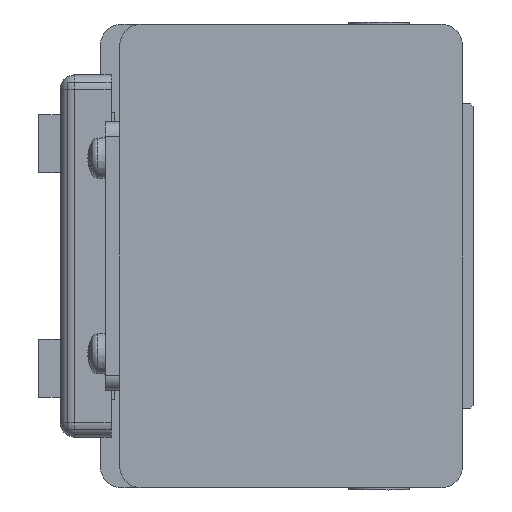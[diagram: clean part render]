
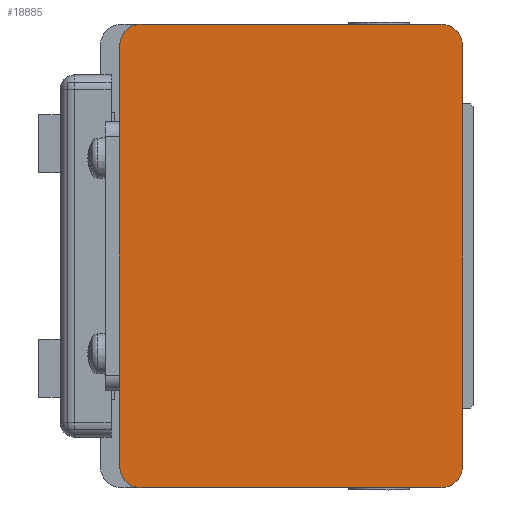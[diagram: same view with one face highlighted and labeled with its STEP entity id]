
A CAD part, left-side view. The second image highlights one B-rep face of the part: STEP entity #18885.
In plain terms, the highlighted planar face has unit normal (-1, 0, 0) as drawn and (0, 0, -1) by its records, which use the part's own axes.
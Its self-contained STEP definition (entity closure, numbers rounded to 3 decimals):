
#779=LINE('',#26643,#2431);
#794=LINE('',#26685,#2446);
#839=LINE('',#26794,#2491);
#861=LINE('',#26863,#2513);
#874=LINE('',#26898,#2526);
#875=LINE('',#26901,#2527);
#876=LINE('',#26902,#2528);
#877=LINE('',#26907,#2529);
#2431=VECTOR('',#21769,19.);
#2446=VECTOR('',#21802,41.3);
#2491=VECTOR('',#21891,41.3);
#2513=VECTOR('',#21951,19.);
#2526=VECTOR('',#21986,0.1);
#2527=VECTOR('',#21989,20.);
#2528=VECTOR('',#21990,0.1);
#2529=VECTOR('',#21995,58.);
#4232=PLANE('',#20107);
#5036=FACE_OUTER_BOUND('',#6140,.T.);
#6140=EDGE_LOOP('',(#12686,#12687,#12688,#12689,#12690,#12691,#12692,#12693,
#12694,#12695,#12696,#12697));
#7376=CIRCLE('',#20108,3.);
#7377=CIRCLE('',#20109,3.);
#7378=CIRCLE('',#20110,3.);
#7379=CIRCLE('',#20111,3.);
#7921=VERTEX_POINT('',#26640);
#7922=VERTEX_POINT('',#26642);
#7939=VERTEX_POINT('',#26682);
#7940=VERTEX_POINT('',#26684);
#7981=VERTEX_POINT('',#26791);
#7982=VERTEX_POINT('',#26793);
#8009=VERTEX_POINT('',#26860);
#8010=VERTEX_POINT('',#26862);
#8021=VERTEX_POINT('',#26896);
#8022=VERTEX_POINT('',#26900);
#8023=VERTEX_POINT('',#26904);
#8024=VERTEX_POINT('',#26906);
#9770=EDGE_CURVE('',#7922,#7921,#779,.T.);
#9791=EDGE_CURVE('',#7940,#7939,#794,.T.);
#9846=EDGE_CURVE('',#7982,#7981,#839,.T.);
#9880=EDGE_CURVE('',#8010,#8009,#861,.T.);
#9899=EDGE_CURVE('',#8021,#7921,#874,.T.);
#9900=EDGE_CURVE('',#8022,#8021,#875,.T.);
#9901=EDGE_CURVE('',#8010,#8022,#876,.T.);
#9902=EDGE_CURVE('',#8009,#7982,#7376,.T.);
#9903=EDGE_CURVE('',#7981,#8023,#7377,.T.);
#9904=EDGE_CURVE('',#8023,#8024,#877,.T.);
#9905=EDGE_CURVE('',#8024,#7940,#7378,.T.);
#9906=EDGE_CURVE('',#7939,#7922,#7379,.T.);
#12686=ORIENTED_EDGE('',*,*,#9770,.T.);
#12687=ORIENTED_EDGE('',*,*,#9899,.F.);
#12688=ORIENTED_EDGE('',*,*,#9900,.F.);
#12689=ORIENTED_EDGE('',*,*,#9901,.F.);
#12690=ORIENTED_EDGE('',*,*,#9880,.T.);
#12691=ORIENTED_EDGE('',*,*,#9902,.T.);
#12692=ORIENTED_EDGE('',*,*,#9846,.T.);
#12693=ORIENTED_EDGE('',*,*,#9903,.T.);
#12694=ORIENTED_EDGE('',*,*,#9904,.T.);
#12695=ORIENTED_EDGE('',*,*,#9905,.T.);
#12696=ORIENTED_EDGE('',*,*,#9791,.T.);
#12697=ORIENTED_EDGE('',*,*,#9906,.T.);
#18885=ADVANCED_FACE('',(#5036),#4232,.F.);
#20107=AXIS2_PLACEMENT_3D('',#26899,#21987,#21988);
#20108=AXIS2_PLACEMENT_3D('',#26903,#21991,#21992);
#20109=AXIS2_PLACEMENT_3D('',#26905,#21993,#21994);
#20110=AXIS2_PLACEMENT_3D('',#26908,#21996,#21997);
#20111=AXIS2_PLACEMENT_3D('',#26909,#21998,#21999);
#21769=DIRECTION('',(1.,0.,0.));
#21802=DIRECTION('',(0.,1.,0.));
#21891=DIRECTION('',(0.,-1.,0.));
#21951=DIRECTION('',(1.,0.,0.));
#21986=DIRECTION('',(0.,-1.,0.));
#21987=DIRECTION('center_axis',(0.,0.,1.));
#21988=DIRECTION('ref_axis',(1.,0.,0.));
#21989=DIRECTION('',(-1.,0.,0.));
#21990=DIRECTION('',(0.,1.,0.));
#21991=DIRECTION('center_axis',(0.,0.,-1.));
#21992=DIRECTION('ref_axis',(-1.,0.,0.));
#21993=DIRECTION('center_axis',(0.,0.,-1.));
#21994=DIRECTION('ref_axis',(0.,1.,0.));
#21995=DIRECTION('',(-1.,0.,0.));
#21996=DIRECTION('center_axis',(0.,0.,-1.));
#21997=DIRECTION('ref_axis',(1.,0.,0.));
#21998=DIRECTION('center_axis',(0.,0.,-1.));
#21999=DIRECTION('ref_axis',(0.,-1.,0.));
#26640=CARTESIAN_POINT('',(22.,48.8,-342.));
#26642=CARTESIAN_POINT('',(3.,48.8,-342.));
#26643=CARTESIAN_POINT('',(3.,48.8,-342.));
#26682=CARTESIAN_POINT('',(0.,45.8,-342.));
#26684=CARTESIAN_POINT('',(0.,4.5,-342.));
#26685=CARTESIAN_POINT('',(0.,4.5,-342.));
#26791=CARTESIAN_POINT('',(64.,4.5,-342.));
#26793=CARTESIAN_POINT('',(64.,45.8,-342.));
#26794=CARTESIAN_POINT('',(64.,45.8,-342.));
#26860=CARTESIAN_POINT('',(61.,48.8,-342.));
#26862=CARTESIAN_POINT('',(42.,48.8,-342.));
#26863=CARTESIAN_POINT('',(42.,48.8,-342.));
#26896=CARTESIAN_POINT('',(22.,48.9,-342.));
#26898=CARTESIAN_POINT('',(22.,48.9,-342.));
#26899=CARTESIAN_POINT('Origin',(32.,25.15,-342.));
#26900=CARTESIAN_POINT('',(42.,48.9,-342.));
#26901=CARTESIAN_POINT('',(42.,48.9,-342.));
#26902=CARTESIAN_POINT('',(42.,48.8,-342.));
#26903=CARTESIAN_POINT('Origin',(61.,45.8,-342.));
#26904=CARTESIAN_POINT('',(61.,1.5,-342.));
#26905=CARTESIAN_POINT('Origin',(61.,4.5,-342.));
#26906=CARTESIAN_POINT('',(3.,1.5,-342.));
#26907=CARTESIAN_POINT('',(61.,1.5,-342.));
#26908=CARTESIAN_POINT('Origin',(3.,4.5,-342.));
#26909=CARTESIAN_POINT('Origin',(3.,45.8,-342.));
